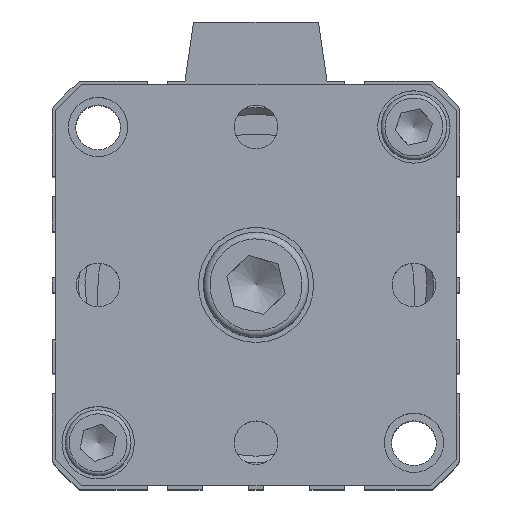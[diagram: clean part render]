
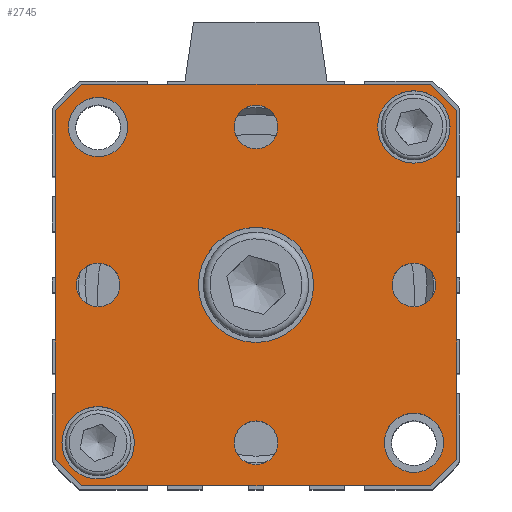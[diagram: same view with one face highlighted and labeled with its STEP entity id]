
A CAD part, top view. The second image highlights one B-rep face of the part: STEP entity #2745.
In plain terms, the highlighted planar face has unit normal (0, 0, 1).
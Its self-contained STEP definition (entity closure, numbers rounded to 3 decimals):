
#365=CARTESIAN_POINT('',(-37.557,28.294,101.6));
#366=VERTEX_POINT('',#365);
#367=CARTESIAN_POINT('',(-33.557,32.294,101.6));
#368=VERTEX_POINT('',#367);
#369=CARTESIAN_POINT('',(-37.557,28.294,101.6));
#370=DIRECTION('',(0.707,0.707,0.0));
#371=VECTOR('',#370,5.657);
#372=LINE('',#369,#371);
#373=EDGE_CURVE('',#366,#368,#372,.T.);
#417=CARTESIAN_POINT('',(19.443,32.294,101.6));
#418=VERTEX_POINT('',#417);
#419=CARTESIAN_POINT('',(-33.557,32.294,101.6));
#420=DIRECTION('',(1.0,0.0,0.0));
#421=VECTOR('',#420,53.);
#422=LINE('',#419,#421);
#423=EDGE_CURVE('',#368,#418,#422,.T.);
#440=CARTESIAN_POINT('',(23.443,28.294,101.6));
#441=VERTEX_POINT('',#440);
#442=CARTESIAN_POINT('',(19.443,32.294,101.6));
#443=DIRECTION('',(0.707,-0.707,0.0));
#444=VECTOR('',#443,5.657);
#445=LINE('',#442,#444);
#446=EDGE_CURVE('',#418,#441,#445,.T.);
#464=CARTESIAN_POINT('',(23.443,-24.706,101.6));
#465=VERTEX_POINT('',#464);
#466=CARTESIAN_POINT('',(19.443,-28.706,101.6));
#467=VERTEX_POINT('',#466);
#468=CARTESIAN_POINT('',(23.443,-24.706,101.6));
#469=DIRECTION('',(-0.707,-0.707,0.0));
#470=VECTOR('',#469,5.657);
#471=LINE('',#468,#470);
#472=EDGE_CURVE('',#465,#467,#471,.T.);
#496=CARTESIAN_POINT('',(-33.557,-28.706,101.6));
#497=VERTEX_POINT('',#496);
#498=CARTESIAN_POINT('',(19.443,-28.706,101.6));
#499=DIRECTION('',(-1.0,0.0,0.0));
#500=VECTOR('',#499,53.);
#501=LINE('',#498,#500);
#502=EDGE_CURVE('',#467,#497,#501,.T.);
#519=CARTESIAN_POINT('',(-37.557,-24.706,101.6));
#520=VERTEX_POINT('',#519);
#521=CARTESIAN_POINT('',(-33.557,-28.706,101.6));
#522=DIRECTION('',(-0.707,0.707,0.0));
#523=VECTOR('',#522,5.657);
#524=LINE('',#521,#523);
#525=EDGE_CURVE('',#497,#520,#524,.T.);
#592=CARTESIAN_POINT('',(1.693,1.794,101.6));
#593=VERTEX_POINT('',#592);
#594=CARTESIAN_POINT('',(-7.057,1.794,101.6));
#595=DIRECTION('',(0.0,0.0,-1.0));
#596=DIRECTION('',(1.0,0.0,0.0));
#597=AXIS2_PLACEMENT_3D('',#594,#595,#596);
#598=CIRCLE('',#597,8.75);
#599=EDGE_CURVE('',#593,#593,#598,.T.);
#711=CARTESIAN_POINT('',(-25.557,-22.206,101.6));
#712=VERTEX_POINT('',#711);
#713=CARTESIAN_POINT('',(-31.057,-22.206,101.6));
#714=DIRECTION('',(0.0,0.0,-1.0));
#715=DIRECTION('',(1.0,0.0,0.0));
#716=AXIS2_PLACEMENT_3D('',#713,#714,#715);
#717=CIRCLE('',#716,5.5);
#718=EDGE_CURVE('',#712,#712,#717,.T.);
#813=CARTESIAN_POINT('',(22.443,25.794,101.6));
#814=VERTEX_POINT('',#813);
#815=CARTESIAN_POINT('',(16.943,25.794,101.6));
#816=DIRECTION('',(0.0,0.0,-1.0));
#817=DIRECTION('',(1.0,0.0,0.0));
#818=AXIS2_PLACEMENT_3D('',#815,#816,#817);
#819=CIRCLE('',#818,5.5);
#820=EDGE_CURVE('',#814,#814,#819,.T.);
#890=CARTESIAN_POINT('',(20.266,1.794,101.6));
#891=VERTEX_POINT('',#890);
#892=CARTESIAN_POINT('',(16.943,1.794,101.6));
#893=DIRECTION('',(0.0,0.0,-1.0));
#894=DIRECTION('',(1.0,0.0,0.0));
#895=AXIS2_PLACEMENT_3D('',#892,#893,#894);
#896=CIRCLE('',#895,3.324);
#897=EDGE_CURVE('',#891,#891,#896,.T.);
#931=CARTESIAN_POINT('',(-3.734,-22.206,101.6));
#932=VERTEX_POINT('',#931);
#933=CARTESIAN_POINT('',(-7.057,-22.206,101.6));
#934=DIRECTION('',(0.0,0.0,-1.0));
#935=DIRECTION('',(1.0,0.0,0.0));
#936=AXIS2_PLACEMENT_3D('',#933,#934,#935);
#937=CIRCLE('',#936,3.324);
#938=EDGE_CURVE('',#932,#932,#937,.T.);
#972=CARTESIAN_POINT('',(-27.734,1.794,101.6));
#973=VERTEX_POINT('',#972);
#974=CARTESIAN_POINT('',(-31.057,1.794,101.6));
#975=DIRECTION('',(0.0,0.0,-1.0));
#976=DIRECTION('',(1.0,0.0,0.0));
#977=AXIS2_PLACEMENT_3D('',#974,#975,#976);
#978=CIRCLE('',#977,3.324);
#979=EDGE_CURVE('',#973,#973,#978,.T.);
#1013=CARTESIAN_POINT('',(-3.734,25.794,101.6));
#1014=VERTEX_POINT('',#1013);
#1015=CARTESIAN_POINT('',(-7.057,25.794,101.6));
#1016=DIRECTION('',(0.0,0.0,-1.0));
#1017=DIRECTION('',(1.0,0.0,0.0));
#1018=AXIS2_PLACEMENT_3D('',#1015,#1016,#1017);
#1019=CIRCLE('',#1018,3.324);
#1020=EDGE_CURVE('',#1014,#1014,#1019,.T.);
#2634=CARTESIAN_POINT('',(21.443,-22.206,101.6));
#2635=VERTEX_POINT('',#2634);
#2636=CARTESIAN_POINT('',(16.943,-22.206,101.6));
#2637=DIRECTION('',(0.0,0.0,-1.0));
#2638=DIRECTION('',(-1.0,0.0,0.0));
#2639=AXIS2_PLACEMENT_3D('',#2636,#2637,#2638);
#2640=CIRCLE('',#2639,4.5);
#2641=EDGE_CURVE('',#2635,#2635,#2640,.T.);
#2654=CARTESIAN_POINT('',(-26.557,25.794,101.6));
#2655=VERTEX_POINT('',#2654);
#2656=CARTESIAN_POINT('',(-31.057,25.794,101.6));
#2657=DIRECTION('',(0.0,0.0,-1.0));
#2658=DIRECTION('',(-1.0,0.0,0.0));
#2659=AXIS2_PLACEMENT_3D('',#2656,#2657,#2658);
#2660=CIRCLE('',#2659,4.5);
#2661=EDGE_CURVE('',#2655,#2655,#2660,.T.);
#2675=CARTESIAN_POINT('',(23.443,28.294,101.6));
#2676=DIRECTION('',(0.0,-1.0,0.0));
#2677=VECTOR('',#2676,53.);
#2678=LINE('',#2675,#2677);
#2679=EDGE_CURVE('',#441,#465,#2678,.T.);
#2694=CARTESIAN_POINT('',(-37.557,-24.706,101.6));
#2695=DIRECTION('',(0.0,1.0,0.0));
#2696=VECTOR('',#2695,53.);
#2697=LINE('',#2694,#2696);
#2698=EDGE_CURVE('',#520,#366,#2697,.T.);
#2703=CARTESIAN_POINT('',(-7.057,1.794,101.6));
#2704=DIRECTION('',(0.0,0.0,1.0));
#2705=DIRECTION('',(1.0,0.0,0.0));
#2706=AXIS2_PLACEMENT_3D('',#2703,#2704,#2705);
#2707=PLANE('',#2706);
#2708=ORIENTED_EDGE('',*,*,#373,.F.);
#2709=ORIENTED_EDGE('',*,*,#2698,.F.);
#2710=ORIENTED_EDGE('',*,*,#525,.F.);
#2711=ORIENTED_EDGE('',*,*,#502,.F.);
#2712=ORIENTED_EDGE('',*,*,#472,.F.);
#2713=ORIENTED_EDGE('',*,*,#2679,.F.);
#2714=ORIENTED_EDGE('',*,*,#446,.F.);
#2715=ORIENTED_EDGE('',*,*,#423,.F.);
#2716=EDGE_LOOP('',(#2708,#2709,#2710,#2711,#2712,#2713,#2714,#2715));
#2717=FACE_OUTER_BOUND('',#2716,.T.);
#2718=ORIENTED_EDGE('',*,*,#599,.T.);
#2719=EDGE_LOOP('',(#2718));
#2720=FACE_BOUND('',#2719,.T.);
#2721=ORIENTED_EDGE('',*,*,#718,.T.);
#2722=EDGE_LOOP('',(#2721));
#2723=FACE_BOUND('',#2722,.T.);
#2724=ORIENTED_EDGE('',*,*,#820,.T.);
#2725=EDGE_LOOP('',(#2724));
#2726=FACE_BOUND('',#2725,.T.);
#2727=ORIENTED_EDGE('',*,*,#897,.T.);
#2728=EDGE_LOOP('',(#2727));
#2729=FACE_BOUND('',#2728,.T.);
#2730=ORIENTED_EDGE('',*,*,#938,.T.);
#2731=EDGE_LOOP('',(#2730));
#2732=FACE_BOUND('',#2731,.T.);
#2733=ORIENTED_EDGE('',*,*,#979,.T.);
#2734=EDGE_LOOP('',(#2733));
#2735=FACE_BOUND('',#2734,.T.);
#2736=ORIENTED_EDGE('',*,*,#1020,.T.);
#2737=EDGE_LOOP('',(#2736));
#2738=FACE_BOUND('',#2737,.T.);
#2739=ORIENTED_EDGE('',*,*,#2641,.T.);
#2740=EDGE_LOOP('',(#2739));
#2741=FACE_BOUND('',#2740,.T.);
#2742=ORIENTED_EDGE('',*,*,#2661,.T.);
#2743=EDGE_LOOP('',(#2742));
#2744=FACE_BOUND('',#2743,.T.);
#2745=ADVANCED_FACE('',(#2717,#2720,#2723,#2726,#2729,#2732,#2735,#2738,#2741,#2744),#2707,.T.);
